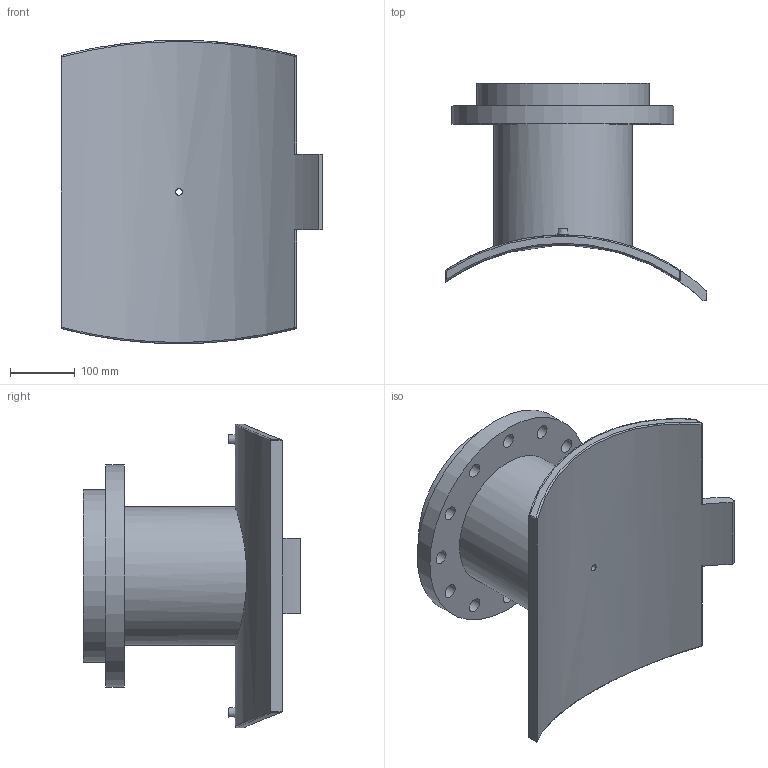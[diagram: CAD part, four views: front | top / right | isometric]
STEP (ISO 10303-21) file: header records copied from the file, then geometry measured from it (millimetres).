
FILE_DESCRIPTION(/* description */ ('PLASSON FLANGED BRANCH SADDLE 630X200'),/* implementation_level */ '2;1');
FILE_NAME(/* name */ 'C:\Dropbox\KIMPROJECTS-Inventor 2019\99-16-3568-Processing\ElectroFusion Fittings\495904_495903\stp\495903630200T.stp',/* time_stamp */ '2024-04-03T21:02:36+02:00',/* author */ ('KIM'),/* organization */ (''),/* preprocessor_version */ 'ST-DEVELOPER v17.2',/* originating_system */ 'Autodesk Inventor 2019',/* authorisation */ '');
FILE_SCHEMA (('AUTOMOTIVE_DESIGN { 1 0 10303 214 3 1 1 }'));
Length unit declared in the file: millimetre
Products named in the file (1): 495903630200T
Bounding box: 405 x 336.52 x 470 mm (x, y, z)
Volume: 8605716.2 mm3; surface area: 838208.3 mm2
Topology: 1 solids, 1 shells, 63 faces, 166 edges, 128 vertices
Faces by surface type: cylinder 36, plane 17, sphere 4, bspline 4, cone 2
Full cylindrical faces by diameter (mm): 4 x2, 10 x2, 10.4 x1, 16 x1, 22 x12, 163 x1, 214.4 x1, 268 x1, 344 x1
Entity records: 2633 total; most frequent: CARTESIAN_POINT 976, DIRECTION 332, ORIENTED_EDGE 304, EDGE_CURVE 152, AXIS2_PLACEMENT_3D 140, VERTEX_POINT 102, EDGE_LOOP 100, CIRCLE 80
